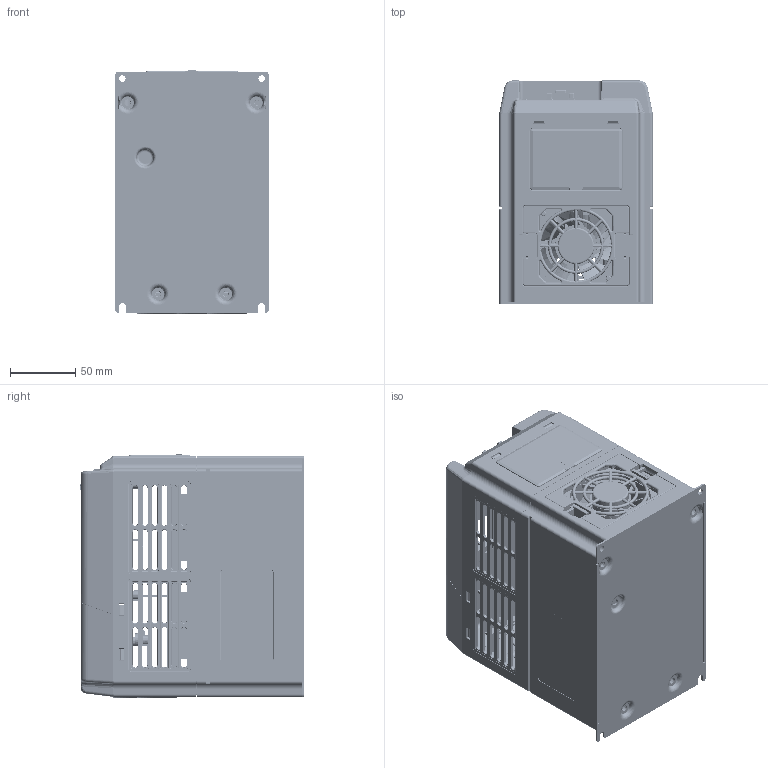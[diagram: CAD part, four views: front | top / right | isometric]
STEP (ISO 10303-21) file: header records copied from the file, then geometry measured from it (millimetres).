
FILE_DESCRIPTION((''),'2;1');
FILE_NAME('APPEARANCE_ASM','2024-07-10T09:49:28',('dylvxj'),(''),'CREO PARAMETRIC BY PTC INC, 2020044','CREO PARAMETRIC BY PTC INC, 2020044','');
FILE_SCHEMA(('CONFIG_CONTROL_DESIGN','SHAPE_APPEARANCE_LAYERS_GROUPS'));
Products named in the file (15): 8ZTD_022_585; M4TONGLS-0105; 5ZTD_022_391_ASM; 8ZTD_355_067; 355046_3_1_1_1_1; 5ZTD_355_150_ASM; 8ZTD_312_041; 8ZTD_312_042; 2121003001; 8ZTD_325_148; 8325V1622; 8ZTD_325_147; 8ZTD_024_804; XJT-0105; APPEARANCE_ASM
Assembly tree (24 placements, depth 3):
  APPEARANCE_ASM
    5ZTD_022_391_ASM
      8ZTD_022_585
      M4TONGLS-0105  x7
    5ZTD_355_150_ASM
      8ZTD_355_067
      355046_3_1_1_1_1  x3
    8ZTD_312_041
    8ZTD_312_042
    2121003001
    8ZTD_325_148
    8325V1622
    8ZTD_325_147
    8ZTD_024_804
    XJT-0105  x3
Bounding box: 118 x 172.3 x 187.11 mm (x, y, z)
Volume: 411852.3 mm3; surface area: 460777.2 mm2
Topology: 23 solids, 27 shells, 6170 faces, 17047 edges, 10961 vertices
Faces by surface type: plane 3145, cylinder 1883, torus 601, bspline 268, cone 248, sphere 22, extrusion 2, revolution 1
Entity records: 253772 total; most frequent: CARTESIAN_POINT 49714, ORIENTED_EDGE 28047, DIRECTION 26877, PRESENTATION_STYLE_ASSIGNMENT 18323, STYLED_ITEM 17817, CURVE_STYLE 14035, EDGE_CURVE 14033, AXIS2_PLACEMENT_3D 9054
